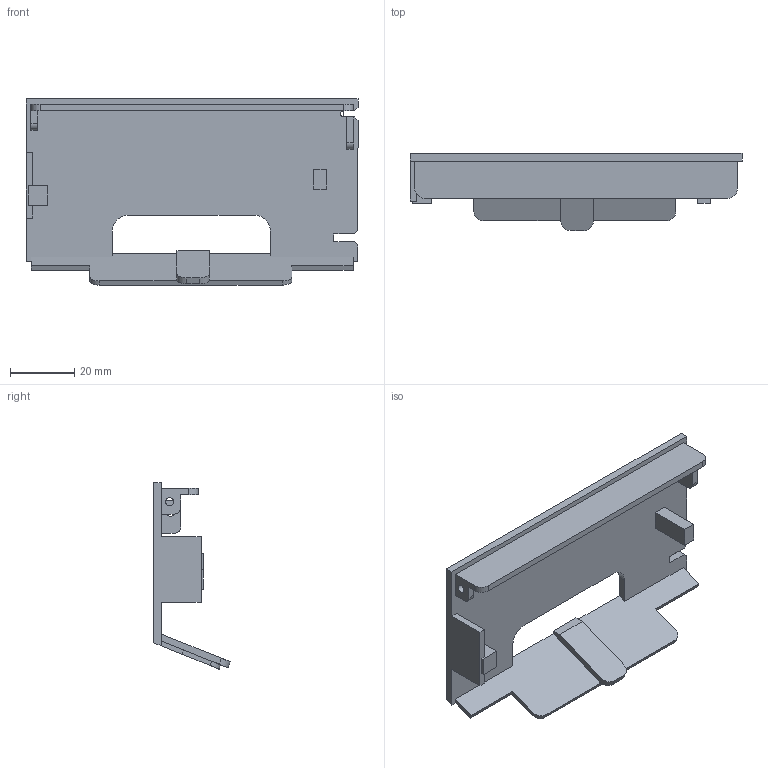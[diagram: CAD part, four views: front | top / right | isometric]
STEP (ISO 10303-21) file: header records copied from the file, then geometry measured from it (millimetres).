
FILE_DESCRIPTION(/* description */ ('','CAx-IF Rec.Pracs.---Representation and Presentation of Product Manufacturing Information (PMI)---4.0---2014-10-13'),/* implementation_level */ '2;1');
FILE_NAME(/* name */ 'RMP Case 2025-02 Back.step',/* time_stamp */ '2025-01-31T08:25:59+11:00',/* author */ (''),/* organization */ (''),/* preprocessor_version */ 'ST-DEVELOPER v20',/* originating_system */ 'Autodesk Translation Framework v13.20.0.188',/* authorisation */ '');
FILE_SCHEMA (('AP242_MANAGED_MODEL_BASED_3D_ENGINEERING_MIM_LF { 1 0 10303 442 1 1 4 }'));
Length unit declared in the file: millimetre
Products named in the file (2): RMP Case 2025-02; Case_SLIM
Assembly tree (2 placements, depth 2):
  RMP Case 2025-02
    Case_SLIM  x2
Bounding box: 103 x 23.85 x 57.75 mm (x, y, z)
Volume: 34149.4 mm3; surface area: 33856.1 mm2
Topology: 2 solids, 2 shells, 376 faces, 1048 edges, 696 vertices
Faces by surface type: plane 308, bspline 40, cylinder 28
Full cylindrical faces by diameter (mm): 2.5 x4
Entity records: 6214 total; most frequent: CARTESIAN_POINT 1404, ORIENTED_EDGE 1048, DIRECTION 859, EDGE_CURVE 524, LINE 453, VECTOR 453, VERTEX_POINT 348, EDGE_LOOP 206
